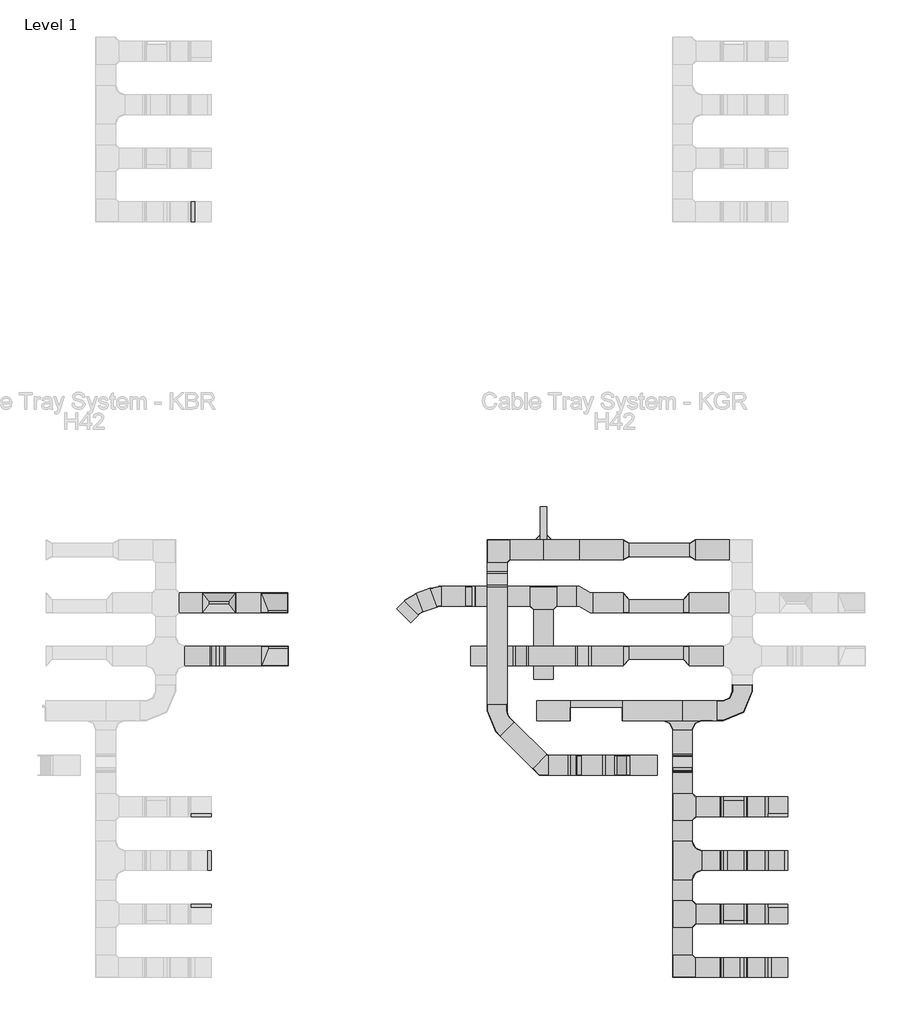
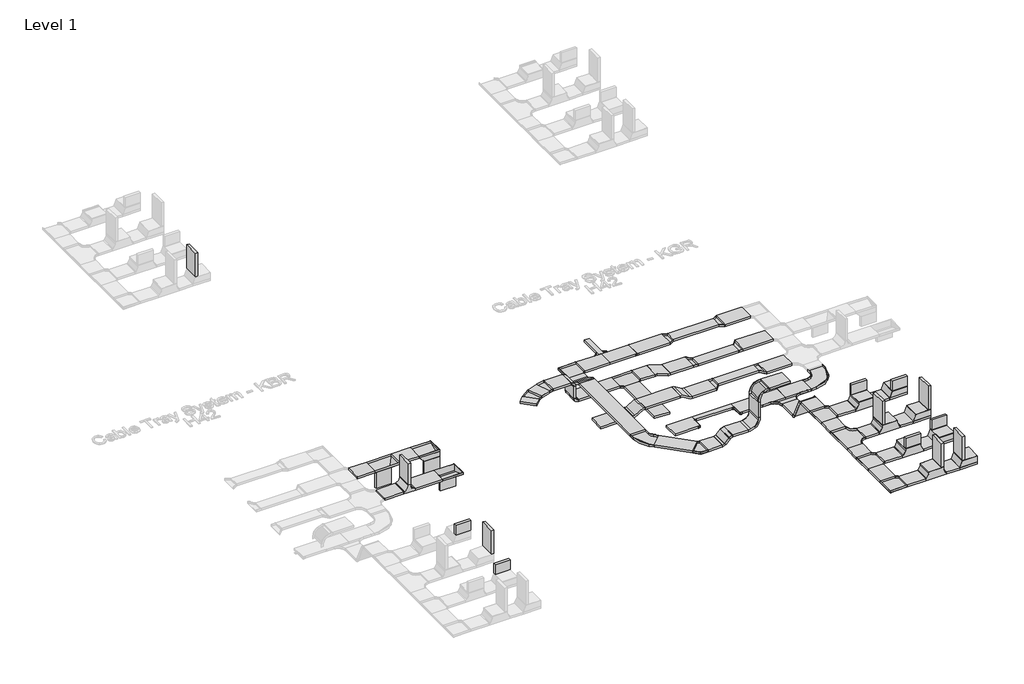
# One storey, part 5 of 32: 67 cable carrier segments, 47 cable carrier fittings.
"""IFC4 building model written with IfcOpenShell, lengths in millimetres."""

from ifc_helpers import new_model, si_unit, frame, origin, place, context, project, spatial, polyline, outline, extrude, transform, mapped, element, save
from components import cable_carrier_fitting_2f03b0e3, cable_carrier_fitting_e5c8e40d, cable_carrier_fitting_efa56db2, cable_carrier_fitting_2b67af39, cable_carrier_fitting_400b97e6, cable_carrier_fitting_736d034b, cable_carrier_fitting_94ef316f, cable_carrier_fitting_d4aa8912, cable_carrier_fitting_717dd42d, cable_carrier_fitting_b6ebce7b, cable_carrier_fitting_70c157f5, cable_carrier_fitting_f138ef00, cable_carrier_fitting_e93d4d17, cable_carrier_fitting_1724e2f5, cable_carrier_fitting_f62230c1, cable_carrier_fitting_ae8e9708, cable_carrier_fitting_2d1b2b1b, cable_carrier_fitting_6d558282, cable_carrier_fitting_b296faec, cable_carrier_fitting_47b1af77, cable_carrier_fitting_55953e98, cable_carrier_fitting_c1d9b0e5, cable_carrier_fitting_19ef2403, cable_carrier_fitting_0fee3a18, cable_carrier_fitting_93b13c26, cable_carrier_fitting_b8cc1d00, cable_carrier_fitting_0e05e12f, cable_carrier_fitting_aa4403b1, cable_carrier_fitting_df0feb0d, cable_carrier_fitting_3ff81d9b, cable_carrier_fitting_7d5806c9, cable_carrier_fitting_881c8fdb, cable_carrier_fitting_302010ec, cable_carrier_fitting_0ce080ce, rkj200_h42_828cf9d7, rkj200_h42_37d9c611

model = new_model("IFC4")

# Units and contexts
model_context = context("Model", 3, world=origin())
ifc_project = project(units=[si_unit("LENGTHUNIT", "METRE", prefix="MILLI")], contexts=[model_context])

# Site, building, storey
site = spatial("IfcSite", under=ifc_project)
building = spatial("IfcBuilding", under=site)
storey = spatial("IfcBuildingStorey", under=building, Name="Level 1", Elevation=0.0)

# Cable carrier fittings
placement = place(None, origin())
cable_carrier_fitting_shape = cable_carrier_fitting_2f03b0e3(model_context)
element("IfcCableCarrierFitting", 1, ObjectType="BAKS_Vertical tee symetrical : TRSNJ_H42", at=placement, inside=storey, context=model_context, shape_type="MappedRepresentation", body=[
    mapped(cable_carrier_fitting_shape, transform((-15558.1670538, 56380.8714214, 0.0), x_axis=(1.0, 0.0, 0.0), y_axis=(0.0, -1.0, 0.0), z_axis=(0.0, 0.0, -1.0))),
])
cable_carrier_fitting_2_shape = cable_carrier_fitting_e5c8e40d(model_context)
element("IfcCableCarrierFitting", 2, ObjectType="BAKS_SUB_Corner connector : LRJ_H42", at=placement, inside=storey, context=model_context, shape_type="MappedRepresentation", body=[
    mapped(cable_carrier_fitting_2_shape, transform((-10693.6670538, 58130.8714214, -21.0), x_axis=(-1.0, 0.0, 0.0), y_axis=(0.0, -1.0, 0.0), z_axis=(0.0, 0.0, 1.0))),
])
element("IfcCableCarrierFitting", 3, ObjectType="BAKS_SUB_Corner connector : LRJ_H42", at=placement, inside=storey, context=model_context, shape_type="MappedRepresentation", body=[
    mapped(cable_carrier_fitting_2_shape, transform((-10593.6670538, 58130.8714214, -21.0), x_axis=(0.0, 1.0, 0.0), y_axis=(-1.0, 0.0, 0.0), z_axis=(0.0, 0.0, 1.0))),
])
cable_carrier_fitting_3_shape = cable_carrier_fitting_efa56db2(model_context)
element("IfcCableCarrierFitting", 4, ObjectType="BAKS_Horizontal bypass : OPZNJ_H42", at=placement, inside=storey, context=model_context, shape_type="MappedRepresentation", body=[
    mapped(cable_carrier_fitting_3_shape, transform((-10022.1670538, 57180.8714214, 0.0), x_axis=(-1.0, 0.0, 0.0), y_axis=(0.0, 1.0, 0.0), z_axis=(0.0, 0.0, -1.0))),
])
cable_carrier_fitting_4_shape = cable_carrier_fitting_2b67af39(model_context)
element("IfcCableCarrierFitting", 5, ObjectType="BAKS_Vertical bypass : OPNNJ_H42", at=placement, inside=storey, context=model_context, shape_type="MappedRepresentation", body=[
    mapped(cable_carrier_fitting_4_shape, transform((-10986.6670538, 56380.8714214, 100.0), x_axis=(-1.0, 0.0, 0.0), y_axis=(0.0, -1.0, 0.0), z_axis=(0.0, 0.0, 1.0))),
])
cable_carrier_fitting_5_shape = cable_carrier_fitting_400b97e6(model_context)
element("IfcCableCarrierFitting", 6, ObjectType="BAKS_Vertical elbow left : KRLBJ_H42", at=placement, inside=storey, context=model_context, shape_type="MappedRepresentation", body=[
    mapped(cable_carrier_fitting_5_shape, transform((-14908.1670538, 57180.8714214, 0.0), x_axis=(1.0, 0.0, 0.0), y_axis=(0.0, 1.0, 0.0), z_axis=(0.0, 0.0, 1.0))),
])
cable_carrier_fitting_6_shape = cable_carrier_fitting_736d034b(model_context)
element("IfcCableCarrierFitting", 7, ObjectType="BAKS_Vertical tee lengthwise : TRBJ_H42", at=placement, inside=storey, context=model_context, shape_type="MappedRepresentation", body=[
    mapped(cable_carrier_fitting_6_shape, transform((-15538.1670538, 57180.8714214, 0.0), x_axis=(-1.0, 0.0, 0.0), y_axis=(0.0, -1.0, 0.0), z_axis=(0.0, 0.0, 1.0))),
])
cable_carrier_fitting_7_shape = cable_carrier_fitting_94ef316f(model_context)
element("IfcCableCarrierFitting", 8, ObjectType="BAKS_Reducer : RK(S/L/P)L_H42", at=placement, inside=storey, context=model_context, shape_type="MappedRepresentation", body=[
    mapped(cable_carrier_fitting_7_shape, transform((-9443.1670538, 57980.8714214, 0.0), x_axis=(1.0, 0.0, 0.0), y_axis=(0.0, 1.0, 0.0), z_axis=(0.0, 0.0, 1.0))),
])
cable_carrier_fitting_8_shape = cable_carrier_fitting_d4aa8912(model_context)
element("IfcCableCarrierFitting", 9, ObjectType="BAKS_Reducer : RK(S/L/P)L_H42", at=placement, inside=storey, context=model_context, shape_type="MappedRepresentation", body=[
    mapped(cable_carrier_fitting_8_shape, transform((-8443.1670538, 57980.8714214, 0.0), x_axis=(1.0, 0.0, 0.0), y_axis=(0.0, 1.0, 0.0), z_axis=(0.0, 0.0, 1.0))),
])
cable_carrier_fitting_9_shape = cable_carrier_fitting_717dd42d(model_context)
element("IfcCableCarrierFitting", 10, ObjectType="BAKS_Horizontal bend : KKBL/KKMBL_H42", at=placement, inside=storey, context=model_context, shape_type="MappedRepresentation", body=[
    mapped(cable_carrier_fitting_9_shape, transform((-11343.1670538, 57980.8714214, 0.0), x_axis=(-1.0, 0.0, 0.0), y_axis=(0.0, -1.0, 0.0), z_axis=(0.0, 0.0, 1.0))),
])
element("IfcCableCarrierFitting", 11, ObjectType="BAKS_Horizontal bend : KKBL/KKMBL_H42", at=placement, inside=storey, context=model_context, shape_type="MappedRepresentation", body=[
    mapped(cable_carrier_fitting_9_shape, transform((-8546.1670538, 51682.0146558, 432.5277378), x_axis=(0.0, -1.0, 0.0), y_axis=(1.0, 0.0, 0.0), z_axis=(0.0, 0.0, 1.0))),
])
cable_carrier_fitting_10_shape = cable_carrier_fitting_b6ebce7b(model_context)
element("IfcCableCarrierFitting", 12, ObjectType="BAKS_Horizontal tee : TKL_H42", at=placement, inside=storey, context=model_context, shape_type="MappedRepresentation", body=[
    mapped(cable_carrier_fitting_10_shape, transform((-10643.6670538, 57280.8714214, 0.0), x_axis=(1.0, 0.0, 0.0), y_axis=(0.0, 1.0, 0.0), z_axis=(0.0, 0.0, 1.0))),
])
element("IfcCableCarrierFitting", 13, ObjectType="BAKS_Horizontal tee : TKL_H42", at=placement, inside=storey, context=model_context, shape_type="MappedRepresentation", body=[
    mapped(cable_carrier_fitting_10_shape, transform((-8546.1670538, 52489.2974728, 432.5277378), x_axis=(0.0, 1.0, 0.0), y_axis=(-1.0, 0.0, 0.0), z_axis=(0.0, 0.0, 1.0))),
])
element("IfcCableCarrierFitting", 14, ObjectType="BAKS_Horizontal tee : TKL_H42", at=placement, inside=storey, context=model_context, shape_type="MappedRepresentation", body=[
    mapped(cable_carrier_fitting_10_shape, transform((-8546.1670538, 54103.8631068, 432.5277378), x_axis=(0.0, 1.0, 0.0), y_axis=(-1.0, 0.0, 0.0), z_axis=(0.0, 0.0, 1.0))),
])
cable_carrier_fitting_11_shape = cable_carrier_fitting_70c157f5(model_context)
element("IfcCableCarrierFitting", 15, ObjectType="BAKS_Reducer : RK(S/L/P)L_H42", at=placement, inside=storey, context=model_context, shape_type="MappedRepresentation", body=[
    mapped(cable_carrier_fitting_11_shape, transform((-9443.1670538, 57180.8714214, 0.0), x_axis=(1.0, 0.0, 0.0), y_axis=(0.0, 1.0, 0.0), z_axis=(0.0, 0.0, 1.0))),
])
element("IfcCableCarrierFitting", 16, ObjectType="BAKS_Reducer : RK(S/L/P)L_H42", at=placement, inside=storey, context=model_context, shape_type="MappedRepresentation", body=[
    mapped(cable_carrier_fitting_11_shape, transform((-8443.1670538, 56380.8714214, 0.0), x_axis=(-1.0, 0.0, 0.0), y_axis=(0.0, -1.0, 0.0), z_axis=(0.0, 0.0, 1.0))),
])
cable_carrier_fitting_12_shape = cable_carrier_fitting_f138ef00(model_context)
element("IfcCableCarrierFitting", 17, ObjectType="BAKS_Reducer : RK(S/L/P)L_H42", at=placement, inside=storey, context=model_context, shape_type="MappedRepresentation", body=[
    mapped(cable_carrier_fitting_12_shape, transform((-8443.1670538, 57180.8714214, 0.0), x_axis=(-1.0, 0.0, 0.0), y_axis=(0.0, -1.0, 0.0), z_axis=(0.0, 0.0, 1.0))),
])
element("IfcCableCarrierFitting", 18, ObjectType="BAKS_Reducer : RK(S/L/P)L_H42", at=placement, inside=storey, context=model_context, shape_type="MappedRepresentation", body=[
    mapped(cable_carrier_fitting_12_shape, transform((-9443.1670538, 56380.8714214, 0.0), x_axis=(1.0, 0.0, 0.0), y_axis=(0.0, 1.0, 0.0), z_axis=(0.0, 0.0, 1.0))),
])
cable_carrier_fitting_13_shape = cable_carrier_fitting_e93d4d17(model_context)
element("IfcCableCarrierFitting", 19, ObjectType="BAKS_Plate connector : LPMU_H42", at=placement, inside=storey, context=model_context, shape_type="MappedRepresentation", body=[
    mapped(cable_carrier_fitting_13_shape, transform((-10103.1670538, 57980.8714214, 0.0), x_axis=(1.0, 0.0, 0.0), y_axis=(0.0, 1.0, 0.0), z_axis=(0.0, 0.0, 1.0))),
])
cable_carrier_fitting_14_shape = cable_carrier_fitting_1724e2f5(model_context)
element("IfcCableCarrierFitting", 20, ObjectType="BAKS_Vertical bypass : OPNNJ_H42", at=placement, inside=storey, context=model_context, shape_type="MappedRepresentation", body=[
    mapped(cable_carrier_fitting_14_shape, transform((-10043.6670538, 56380.8714214, 0.0), x_axis=(-1.0, 0.0, 0.0), y_axis=(0.0, -1.0, 0.0), z_axis=(0.0, 0.0, 1.0))),
])
element("IfcCableCarrierFitting", 21, ObjectType="BAKS_Vertical bypass : OPNNJ_H42", at=placement, inside=storey, context=model_context, shape_type="MappedRepresentation", body=[
    mapped(cable_carrier_fitting_14_shape, transform((-11343.1670538, 57539.3714214, 0.0), x_axis=(0.0, -1.0, 0.0), y_axis=(1.0, 0.0, 0.0), z_axis=(0.0, 0.0, 1.0))),
])
cable_carrier_fitting_15_shape = cable_carrier_fitting_f62230c1(model_context)
element("IfcCableCarrierFitting", 22, ObjectType="BAKS_Vertical bend LU : LUNJ/LUMNJ_H42", at=placement, inside=storey, context=model_context, shape_type="MappedRepresentation", body=[
    mapped(cable_carrier_fitting_15_shape, transform((-11743.6670538, 57280.8714214, 0.0), x_axis=(-1.0, 0.0, 0.0), y_axis=(0.0, 0.0, 1.0), z_axis=(0.0, 1.0, 0.0))),
])
element("IfcCableCarrierFitting", 23, ObjectType="BAKS_Vertical bend LU : LUNJ/LUMNJ_H42", at=placement, inside=storey, context=model_context, shape_type="MappedRepresentation", body=[
    mapped(cable_carrier_fitting_15_shape, transform((-11743.6670538, 57280.8714214, 400.0), x_axis=(0.0, 0.0, 1.0), y_axis=(-1.0, 0.0, 0.0), z_axis=(0.0, -1.0, 0.0))),
])
cable_carrier_fitting_16_shape = cable_carrier_fitting_ae8e9708(model_context)
element("IfcCableCarrierFitting", 24, ObjectType="BAKS_Horizontal bend : KKBL/KKMBL_H42", at=placement, inside=storey, context=model_context, shape_type="MappedRepresentation", body=[
    mapped(cable_carrier_fitting_16_shape, transform((-10643.6670538, 54731.3714214, 100.0), x_axis=(0.7071067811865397, -0.7071067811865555, 0.0), y_axis=(0.7071067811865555, 0.7071067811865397, 0.0), z_axis=(0.0, 0.0, 1.0))),
])
cable_carrier_fitting_17_shape = cable_carrier_fitting_2d1b2b1b(model_context)
element("IfcCableCarrierFitting", 25, ObjectType="BAKS_Vertical bend LU : LUNJ/LUMNJ_H42", at=placement, inside=storey, context=model_context, shape_type="MappedRepresentation", body=[
    mapped(cable_carrier_fitting_17_shape, transform((-10243.6670538, 54731.3714214, 100.0), x_axis=(1.0, 0.0, 0.0), y_axis=(0.0, 0.0, 1.0), z_axis=(0.0, -1.0, 0.0))),
])
element("IfcCableCarrierFitting", 26, ObjectType="BAKS_Vertical bend LU : LUNJ/LUMNJ_H42", at=placement, inside=storey, context=model_context, shape_type="MappedRepresentation", body=[
    mapped(cable_carrier_fitting_17_shape, transform((-10106.2659001, 54731.3714214, 237.4011537), x_axis=(0.7071067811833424, 0.0, 0.7071067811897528), y_axis=(0.7071067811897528, 0.0, -0.7071067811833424), z_axis=(0.0, 1.0, 0.0))),
])
cable_carrier_fitting_18_shape = cable_carrier_fitting_6d558282(model_context)
element("IfcCableCarrierFitting", 27, ObjectType="BAKS_Vertical bend adjustable : LLL/LLJ_H42", at=placement, inside=storey, context=model_context, shape_type="MappedRepresentation", body=[
    mapped(cable_carrier_fitting_18_shape, transform((-9546.2659001, 54731.3714214, 237.4011537), x_axis=(1.0, 0.0, 0.0), y_axis=(0.0, 0.0, 1.0), z_axis=(0.0, -1.0, 0.0))),
])
element("IfcCableCarrierFitting", 28, ObjectType="BAKS_Vertical bend adjustable : LLL/LLJ_H42", at=placement, inside=storey, context=model_context, shape_type="MappedRepresentation", body=[
    mapped(cable_carrier_fitting_18_shape, transform((-9546.2659001, 54731.3714214, 977.4011537), x_axis=(0.0, 0.0, 1.0), y_axis=(1.0, 0.0, 0.0), z_axis=(0.0, 1.0, 0.0))),
])
cable_carrier_fitting_19_shape = cable_carrier_fitting_b296faec(model_context)
element("IfcCableCarrierFitting", 29, ObjectType="BAKS_Horizontal addon tee : TKDJ_H42", at=placement, inside=storey, context=model_context, shape_type="MappedRepresentation", body=[
    mapped(cable_carrier_fitting_19_shape, transform((-8546.1670538, 55555.8714214, 0.0), x_axis=(1.0, 0.0, 0.0), y_axis=(0.0, 1.0, 0.0), z_axis=(0.0, 0.0, 1.0))),
])
cable_carrier_fitting_20_shape = cable_carrier_fitting_47b1af77(model_context)
element("IfcCableCarrierFitting", 30, ObjectType="BAKS_Articulated_connector : LGJ_H42", at=placement, inside=storey, context=model_context, shape_type="MappedRepresentation", body=[
    mapped(cable_carrier_fitting_20_shape, transform((-8546.1670538, 54858.7056523, 0.0), x_axis=(0.0, -1.0, 0.0), y_axis=(0.0, 0.0, 1.0), z_axis=(-1.0, 0.0, 0.0))),
])
element("IfcCableCarrierFitting", 31, ObjectType="BAKS_Articulated_connector : LGJ_H42", at=placement, inside=storey, context=model_context, shape_type="MappedRepresentation", body=[
    mapped(cable_carrier_fitting_20_shape, transform((-8546.1670538, 54657.0146558, 432.5277378), x_axis=(0.0, -0.42261826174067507, 0.9063077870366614), y_axis=(0.0, -0.9063077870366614, -0.42261826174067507), z_axis=(1.0, 0.0, 0.0))),
])
cable_carrier_fitting_21_shape = cable_carrier_fitting_55953e98(model_context)
element("IfcCableCarrierFitting", 32, ObjectType="BAKS_Horizontal bend radius : KKPJ/KKMPJ_H42", at=placement, inside=storey, context=model_context, shape_type="MappedRepresentation", body=[
    mapped(cable_carrier_fitting_21_shape, transform((-11343.1670538, 55430.8714214, 100.0), x_axis=(0.0, -1.0, 0.0), y_axis=(1.0, 0.0, 0.0), z_axis=(0.0, 0.0, 1.0))),
])
cable_carrier_fitting_22_shape = cable_carrier_fitting_c1d9b0e5(model_context)
element("IfcCableCarrierFitting", 33, ObjectType="BAKS_Horizontal bend radius : KKPJ/KKMPJ_H42", at=placement, inside=storey, context=model_context, shape_type="MappedRepresentation", body=[
    mapped(cable_carrier_fitting_22_shape, transform((-7643.1670538, 55555.8714214, 0.0), x_axis=(1.0, 0.0, 0.0), y_axis=(0.0, 1.0, 0.0), z_axis=(0.0, 0.0, 1.0))),
])
cable_carrier_fitting_23_shape = cable_carrier_fitting_19ef2403(model_context)
element("IfcCableCarrierFitting", 34, ObjectType="BAKS_Adjustable bend : KKRPJ_H42", at=placement, inside=storey, context=model_context, shape_type="MappedRepresentation", body=[
    mapped(cable_carrier_fitting_23_shape, transform((-12581.9563973, 57157.7441698, 400.0), x_axis=(-0.9396926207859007, -0.34202014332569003, 0.0), y_axis=(0.34202014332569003, -0.9396926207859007, 0.0), z_axis=(0.0, 0.0, 1.0))),
])
cable_carrier_fitting_24_shape = cable_carrier_fitting_0fee3a18(model_context)
element("IfcCableCarrierFitting", 35, ObjectType="BAKS_Adjustable bend : KKRPJ_H42", at=placement, inside=storey, context=model_context, shape_type="MappedRepresentation", body=[
    mapped(cable_carrier_fitting_24_shape, transform((-12243.6670538, 57280.8714214, 400.0), x_axis=(-1.0, 0.0, 0.0), y_axis=(0.0, -1.0, 0.0), z_axis=(0.0, 0.0, 1.0))),
])
cable_carrier_fitting_25_shape = cable_carrier_fitting_93b13c26(model_context)
element("IfcCableCarrierFitting", 36, ObjectType="BAKS_Horizontal tee radius : TKPJ_H42", at=placement, inside=storey, context=model_context, shape_type="MappedRepresentation", body=[
    mapped(cable_carrier_fitting_25_shape, transform((-8546.1670538, 53296.5802898, 432.5277378), x_axis=(0.0, 1.0, 0.0), y_axis=(-1.0, 0.0, 0.0), z_axis=(0.0, 0.0, 1.0))),
])
cable_carrier_fitting_26_shape = cable_carrier_fitting_b8cc1d00(model_context)
element("IfcCableCarrierFitting", 37, ObjectType="BAKS_Vertical elbow right : KRPJ_H42", at=placement, inside=storey, context=model_context, shape_type="MappedRepresentation", body=[
    mapped(cable_carrier_fitting_26_shape, transform((-14902.1670538, 56380.8714214, 0.0), x_axis=(1.0, 0.0, 0.0), y_axis=(0.0, 1.0, 0.0), z_axis=(0.0, 0.0, 1.0))),
])
cable_carrier_fitting_27_shape = cable_carrier_fitting_0e05e12f(model_context)
element("IfcCableCarrierFitting", 38, ObjectType="BAKS_Universal elbow : KRUMJ_H42", at=placement, inside=storey, context=model_context, shape_type="MappedRepresentation", body=[
    mapped(cable_carrier_fitting_27_shape, transform((-7306.1670538, 54103.8631068, 432.5277378), x_axis=(1.0, 0.0, 0.0), y_axis=(0.0, 1.0, 0.0), z_axis=(0.0, 0.0, 1.0))),
])
cable_carrier_fitting_28_shape = cable_carrier_fitting_aa4403b1(model_context)
element("IfcCableCarrierFitting", 39, ObjectType="BAKS_Universal elbow : KRUMJ_H42", at=placement, inside=storey, context=model_context, shape_type="MappedRepresentation", body=[
    mapped(cable_carrier_fitting_28_shape, transform((-7306.1670538, 52489.2974728, 432.5277378), x_axis=(1.0, 0.0, 0.0), y_axis=(0.0, 1.0, 0.0), z_axis=(0.0, 0.0, 1.0))),
])
cable_carrier_fitting_29_shape = cable_carrier_fitting_df0feb0d(model_context)
element("IfcCableCarrierFitting", 40, ObjectType="BAKS_Universal elbow : KRUMJ_H42", at=placement, inside=storey, context=model_context, shape_type="MappedRepresentation", body=[
    mapped(cable_carrier_fitting_29_shape, transform((-7306.1670538, 51682.0146558, 432.5277378), x_axis=(1.0, 0.0, 0.0), y_axis=(0.0, 1.0, 0.0), z_axis=(0.0, 0.0, 1.0))),
])
cable_carrier_fitting_30_shape = cable_carrier_fitting_3ff81d9b(model_context)
element("IfcCableCarrierFitting", 41, ObjectType="BAKS_Universal tee : TRUNJ_H42", at=placement, inside=storey, context=model_context, shape_type="MappedRepresentation", body=[
    mapped(cable_carrier_fitting_30_shape, transform((-7773.5199976, 54103.8631068, 432.5277378), x_axis=(-1.0, 0.0, 0.0), y_axis=(0.0, -1.0, 0.0), z_axis=(0.0, 0.0, 1.0))),
])
cable_carrier_fitting_31_shape = cable_carrier_fitting_7d5806c9(model_context)
element("IfcCableCarrierFitting", 42, ObjectType="BAKS_Universal tee : TRUNJ_H42", at=placement, inside=storey, context=model_context, shape_type="MappedRepresentation", body=[
    mapped(cable_carrier_fitting_31_shape, transform((-7773.5199976, 52489.2974728, 432.5277378), x_axis=(-1.0, 0.0, 0.0), y_axis=(0.0, -1.0, 0.0), z_axis=(0.0, 0.0, 1.0))),
])
cable_carrier_fitting_32_shape = cable_carrier_fitting_881c8fdb(model_context)
element("IfcCableCarrierFitting", 43, ObjectType="BAKS_Universal elbow : KRUMJ_H42", at=placement, inside=storey, context=model_context, shape_type="MappedRepresentation", body=[
    mapped(cable_carrier_fitting_32_shape, transform((-7306.1670538, 53296.5802898, 432.5277378), x_axis=(1.0, 0.0, 0.0), y_axis=(0.0, 1.0, 0.0), z_axis=(0.0, 0.0, 1.0))),
])
cable_carrier_fitting_33_shape = cable_carrier_fitting_302010ec(model_context)
element("IfcCableCarrierFitting", 44, ObjectType="BAKS_Universal tee : TRUNJ_H42", at=placement, inside=storey, context=model_context, shape_type="MappedRepresentation", body=[
    mapped(cable_carrier_fitting_33_shape, transform((-7773.5199976, 53296.5802898, 432.5277378), x_axis=(-1.0, 0.0, 0.0), y_axis=(0.0, -1.0, 0.0), z_axis=(0.0, 0.0, 1.0))),
])
cable_carrier_fitting_34_shape = cable_carrier_fitting_0ce080ce(model_context)
element("IfcCableCarrierFitting", 45, ObjectType="BAKS_Universal tee : TRUNJ_H42", at=placement, inside=storey, context=model_context, shape_type="MappedRepresentation", body=[
    mapped(cable_carrier_fitting_34_shape, transform((-7773.5199976, 51682.0146558, 432.5277378), x_axis=(-1.0, 0.0, 0.0), y_axis=(0.0, -1.0, 0.0), z_axis=(0.0, 0.0, 1.0))),
])
rkj200_h42_shape = rkj200_h42_828cf9d7(model_context)
element("IfcCableCarrierFitting", 46, ObjectType="BAKS_Angle reducer : RKJ200_H42", at=placement, inside=storey, context=model_context, shape_type="MappedRepresentation", body=[
    mapped(rkj200_h42_shape, transform((-9453.1670538, 55555.8714214, 0.0), x_axis=(-1.0, 0.0, 0.0), y_axis=(0.0, -1.0, 0.0), z_axis=(0.0, 0.0, 1.0))),
])
rkj200_h42_2_shape = rkj200_h42_37d9c611(model_context)
element("IfcCableCarrierFitting", 47, ObjectType="BAKS_Angle reducer : RKJ200_H42", at=placement, inside=storey, context=model_context, shape_type="MappedRepresentation", body=[
    mapped(rkj200_h42_2_shape, transform((-10243.1670538, 55555.8714214, 0.0), x_axis=(1.0, 0.0, 0.0), y_axis=(0.0, 1.0, 0.0), z_axis=(0.0, 0.0, 1.0))),
])

# Cable carrier segments
element("IfcCableCarrierSegment", 48, ObjectType="BAKS - Cable tray H42 (KBR)", at=placement, inside=storey, context=model_context, shape_type="SweptSolid", body=[
    extrude(outline(polyline([(-16138.1670538, 57030.8714214), (-16138.1670538, 57330.8714214), (-15788.1670538, 57330.8714214), (-15788.1670538, 57030.8714214), (-16138.1670538, 57030.8714214)])), frame((0.0, 0.0, -21.0), z_axis=(0.0, 0.0, 1.0), x_axis=(1.0, 0.0, 0.0)), (0.0, 0.0, 1.0), 42.0),
])
element("IfcCableCarrierSegment", 49, ObjectType="BAKS - Cable tray H42 (KBR)", at=placement, inside=storey, context=model_context, shape_type="SweptSolid", body=[
    extrude(outline(polyline([(-16052.1670538, 56230.8714214), (-16052.1670538, 56530.8714214), (-15674.1670538, 56530.8714214), (-15674.1670538, 56230.8714214), (-16052.1670538, 56230.8714214)])), frame((0.0, 0.0, -21.0), z_axis=(0.0, 0.0, 1.0), x_axis=(1.0, 0.0, 0.0)), (0.0, 0.0, 1.0), 42.0),
])
element("IfcCableCarrierSegment", 50, ObjectType="BAKS - Cable tray H42 (KBR)", at=placement, inside=storey, context=model_context, shape_type="SweptSolid", body=[
    extrude(outline(polyline([(-15442.1670538, 56230.8714214), (-15442.1670538, 56530.8714214), (-14902.1670538, 56530.8714214), (-14902.1670538, 56230.8714214), (-15442.1670538, 56230.8714214)])), frame((0.0, 0.0, -21.0), z_axis=(0.0, 0.0, 1.0), x_axis=(1.0, 0.0, 0.0)), (0.0, 0.0, 1.0), 42.0),
])
element("IfcCableCarrierSegment", 51, ObjectType="BAKS - Cable tray H42 (KBR)", at=placement, inside=storey, context=model_context, shape_type="SweptSolid", body=[
    extrude(outline(polyline([(-15537.1670538, 56230.8714214), (-15579.1670538, 56230.8714214), (-15579.1670538, 56530.8714214), (-15537.1670538, 56530.8714214), (-15537.1670538, 56230.8714214)])), frame((0.0, 0.0, 136.0), z_axis=(0.0, 0.0, 1.0), x_axis=(1.0, 0.0, 0.0)), (0.0, 0.0, 1.0), 449.0),
])
element("IfcCableCarrierSegment", 52, ObjectType="BAKS - Cable tray H42 (KGR)", at=placement, inside=storey, context=model_context, shape_type="SweptSolid", body=[
    extrude(outline(polyline([(-15688.1670538, 57201.8714214), (-15388.1670538, 57201.8714214), (-15388.1670538, 57159.8714214), (-15688.1670538, 57159.8714214), (-15688.1670538, 57201.8714214)])), frame((0.0, 0.0, -464.0), z_axis=(0.0, 0.0, 1.0), x_axis=(1.0, 0.0, 0.0)), (0.0, 0.0, 1.0), 343.0),
])
element("IfcCableCarrierSegment", 53, ObjectType="BAKS - Cable tray H42 (KBR)", at=placement, inside=storey, context=model_context, shape_type="SweptSolid", body=[
    extrude(outline(polyline([(-15288.1670538, 57030.8714214), (-15288.1670538, 57330.8714214), (-14908.1670538, 57330.8714214), (-14908.1670538, 57030.8714214), (-15288.1670538, 57030.8714214)])), frame((0.0, 0.0, -21.0), z_axis=(0.0, 0.0, 1.0), x_axis=(1.0, 0.0, 0.0)), (0.0, 0.0, 1.0), 42.0),
])
element("IfcCableCarrierSegment", 54, ObjectType="BAKS - Cable tray H42 (KGR)", at=placement, inside=storey, context=model_context, shape_type="SweptSolid", body=[
    extrude(outline(polyline([(-14498.1670538, 57030.8714214), (-14798.1670538, 57030.8714214), (-14798.1670538, 57072.8714214), (-14498.1670538, 57072.8714214), (-14498.1670538, 57030.8714214)])), frame((0.0, 0.0, -464.0), z_axis=(0.0, 0.0, 1.0), x_axis=(1.0, 0.0, 0.0)), (0.0, 0.0, 1.0), 343.0),
])
element("IfcCableCarrierSegment", 55, ObjectType="BAKS - Cable tray H42 (KGR)", at=placement, inside=storey, context=model_context, shape_type="SweptSolid", body=[
    extrude(outline(polyline([(-14492.1670538, 56488.8714214), (-14792.1670538, 56488.8714214), (-14792.1670538, 56530.8714214), (-14492.1670538, 56530.8714214), (-14492.1670538, 56488.8714214)])), frame((0.0, 0.0, -421.0), z_axis=(0.0, 0.0, 1.0), x_axis=(1.0, 0.0, 0.0)), (0.0, 0.0, 1.0), 300.0),
])
element("IfcCableCarrierSegment", 56, ObjectType="BAKS - Cable tray H42 (KGR)", at=placement, inside=storey, context=model_context, shape_type="SweptSolid", body=[
    extrude(outline(polyline([(-10102.1670538, 57830.8714214), (-10102.1670538, 58130.8714214), (-9443.1670538, 58130.8714214), (-9443.1670538, 57830.8714214), (-10102.1670538, 57830.8714214)])), frame((0.0, 0.0, -21.0), z_axis=(0.0, 0.0, 1.0), x_axis=(1.0, 0.0, 0.0)), (0.0, 0.0, 1.0), 42.0),
])
element("IfcCableCarrierSegment", 57, ObjectType="BAKS - Cable tray H42 (KGR)", at=placement, inside=storey, context=model_context, shape_type="SweptSolid", body=[
    extrude(outline(polyline([(-9348.1670538, 57880.8714214), (-9348.1670538, 58080.8714214), (-8443.1670538, 58080.8714214), (-8443.1670538, 57880.8714214), (-9348.1670538, 57880.8714214)])), frame((0.0, 0.0, -21.0), z_axis=(0.0, 0.0, 1.0), x_axis=(1.0, 0.0, 0.0)), (0.0, 0.0, 1.0), 42.0),
])
element("IfcCableCarrierSegment", 58, ObjectType="BAKS - Cable tray H42 (KGR)", at=placement, inside=storey, context=model_context, shape_type="SweptSolid", body=[
    extrude(outline(polyline([(-8348.1670538, 57830.8714214), (-8348.1670538, 58130.8714214), (-7839.1670538, 58130.8714214), (-7839.1670538, 57830.8714214), (-8348.1670538, 57830.8714214)])), frame((0.0, 0.0, -21.0), z_axis=(0.0, 0.0, 1.0), x_axis=(1.0, 0.0, 0.0)), (0.0, 0.0, 1.0), 42.0),
])
element("IfcCableCarrierSegment", 59, ObjectType="BAKS - Cable tray H42 (KGR)", at=placement, inside=storey, context=model_context, shape_type="SweptSolid", body=[
    extrude(outline(polyline([(-8538.1670538, 57230.8714214), (-8538.1670538, 57030.8714214), (-9348.1670538, 57030.8714214), (-9348.1670538, 57230.8714214), (-8538.1670538, 57230.8714214)])), frame((0.0, 0.0, -21.0), z_axis=(0.0, 0.0, 1.0), x_axis=(1.0, 0.0, 0.0)), (0.0, 0.0, 1.0), 42.0),
])
element("IfcCableCarrierSegment", 60, ObjectType="BAKS - Cable tray H42 (KGR)", at=placement, inside=storey, context=model_context, shape_type="SweptSolid", body=[
    extrude(outline(polyline([(-9900.6670538, 57030.8714214), (-9900.6670538, 57330.8714214), (-9443.1670538, 57330.8714214), (-9443.1670538, 57030.8714214), (-9900.6670538, 57030.8714214)])), frame((0.0, 0.0, -21.0), z_axis=(0.0, 0.0, 1.0), x_axis=(1.0, 0.0, 0.0)), (0.0, 0.0, 1.0), 42.0),
])
element("IfcCableCarrierSegment", 61, ObjectType="BAKS - Cable tray H42 (KGR)", at=placement, inside=storey, context=model_context, shape_type="SweptSolid", body=[
    extrude(outline(polyline([(-7848.1670538, 57330.8714214), (-7848.1670538, 57030.8714214), (-8443.1670538, 57030.8714214), (-8443.1670538, 57330.8714214), (-7848.1670538, 57330.8714214)])), frame((0.0, 0.0, -21.0), z_axis=(0.0, 0.0, 1.0), x_axis=(1.0, 0.0, 0.0)), (0.0, 0.0, 1.0), 42.0),
])
element("IfcCableCarrierSegment", 62, ObjectType="BAKS - Cable tray H42 (KGR)", at=placement, inside=storey, context=model_context, shape_type="SweptSolid", body=[
    extrude(outline(polyline([(-8538.1670538, 56530.8714214), (-8538.1670538, 56330.8714214), (-9348.1670538, 56330.8714214), (-9348.1670538, 56530.8714214), (-8538.1670538, 56530.8714214)])), frame((0.0, 0.0, -21.0), z_axis=(0.0, 0.0, 1.0), x_axis=(1.0, 0.0, 0.0)), (0.0, 0.0, 1.0), 42.0),
])
element("IfcCableCarrierSegment", 63, ObjectType="BAKS - Cable tray H42 (KGR)", at=placement, inside=storey, context=model_context, shape_type="SweptSolid", body=[
    extrude(outline(polyline([(-9922.1670538, 56230.8714214), (-9922.1670538, 56530.8714214), (-9443.1670538, 56530.8714214), (-9443.1670538, 56230.8714214), (-9922.1670538, 56230.8714214)])), frame((0.0, 0.0, -21.0), z_axis=(0.0, 0.0, 1.0), x_axis=(1.0, 0.0, 0.0)), (0.0, 0.0, 1.0), 42.0),
])
element("IfcCableCarrierSegment", 64, ObjectType="BAKS - Cable tray H42 (KGR)", at=placement, inside=storey, context=model_context, shape_type="SweptSolid", body=[
    extrude(outline(polyline([(-7934.1670538, 56530.8714214), (-7934.1670538, 56230.8714214), (-8443.1670538, 56230.8714214), (-8443.1670538, 56530.8714214), (-7934.1670538, 56530.8714214)])), frame((0.0, 0.0, -21.0), z_axis=(0.0, 0.0, 1.0), x_axis=(1.0, 0.0, 0.0)), (0.0, 0.0, 1.0), 42.0),
])
element("IfcCableCarrierSegment", 65, ObjectType="BAKS - Cable tray H42 (KGR)", at=placement, inside=storey, context=model_context, shape_type="SweptSolid", body=[
    extrude(outline(polyline([(-10848.6670538, 57430.8714214), (-10848.6670538, 57130.8714214), (-11667.6670538, 57130.8714214), (-11667.6670538, 57430.8714214), (-10848.6670538, 57430.8714214)])), frame((0.0, 0.0, -21.0), z_axis=(0.0, 0.0, 1.0), x_axis=(1.0, 0.0, 0.0)), (0.0, 0.0, 1.0), 42.0),
])
element("IfcCableCarrierSegment", 66, ObjectType="BAKS - Cable tray H42 (KGR)", at=placement, inside=storey, context=model_context, shape_type="SweptSolid", body=[
    extrude(outline(polyline([(-10165.1670538, 56530.8714214), (-10165.1670538, 56230.8714214), (-10865.1670538, 56230.8714214), (-10865.1670538, 56530.8714214), (-10165.1670538, 56530.8714214)])), frame((0.0, 0.0, 79.0), z_axis=(0.0, 0.0, 1.0), x_axis=(1.0, 0.0, 0.0)), (0.0, 0.0, 1.0), 42.0),
])
element("IfcCableCarrierSegment", 67, ObjectType="BAKS - Cable tray H42 (KGR)", at=placement, inside=storey, context=model_context, shape_type="SweptSolid", body=[
    extrude(outline(polyline([(-11493.1670538, 57784.8714214), (-11193.1670538, 57784.8714214), (-11193.1670538, 57660.8714214), (-11493.1670538, 57660.8714214), (-11493.1670538, 57784.8714214)])), frame((0.0, 0.0, -21.0), z_axis=(0.0, 0.0, 1.0), x_axis=(1.0, 0.0, 0.0)), (0.0, 0.0, 1.0), 42.0),
])
element("IfcCableCarrierSegment", 68, ObjectType="BAKS - Cable tray H42 (KGR)", at=placement, inside=storey, context=model_context, shape_type="SweptSolid", body=[
    extrude(outline(polyline([(-10793.6670538, 57075.8714214), (-10493.6670538, 57075.8714214), (-10493.6670538, 56030.8714214), (-10793.6670538, 56030.8714214), (-10793.6670538, 57075.8714214)])), frame((0.0, 0.0, -21.0), z_axis=(0.0, 0.0, 1.0), x_axis=(1.0, 0.0, 0.0)), (0.0, 0.0, 1.0), 42.0),
])
element("IfcCableCarrierSegment", 69, ObjectType="BAKS - Cable tray H42 (KGR)", at=placement, inside=storey, context=model_context, shape_type="SweptSolid", body=[
    extrude(outline(polyline([(-10143.6670538, 57430.8714214), (-10143.6670538, 57130.8714214), (-10438.6670538, 57130.8714214), (-10438.6670538, 57430.8714214), (-10143.6670538, 57430.8714214)])), frame((0.0, 0.0, -21.0), z_axis=(0.0, 0.0, 1.0), x_axis=(1.0, 0.0, 0.0)), (0.0, 0.0, 1.0), 42.0),
])
element("IfcCableCarrierSegment", 70, ObjectType="BAKS - Cable tray H42 (KGR)", at=placement, inside=storey, context=model_context, shape_type="SweptSolid", body=[
    extrude(outline(polyline([(-11108.1670538, 56530.8714214), (-11108.1670538, 56230.8714214), (-11743.6670538, 56230.8714214), (-11743.6670538, 56530.8714214), (-11108.1670538, 56530.8714214)])), frame((0.0, 0.0, -21.0), z_axis=(0.0, 0.0, 1.0), x_axis=(1.0, 0.0, 0.0)), (0.0, 0.0, 1.0), 42.0),
])
element("IfcCableCarrierSegment", 71, ObjectType="BAKS - Cable tray H42 (KGR)", at=placement, inside=storey, context=model_context, shape_type="SweptSolid", body=[
    extrude(outline(polyline([(-12177.5322294, 57130.8714214), (-12177.5322294, 57430.8714214), (-11819.6670538, 57430.8714214), (-11819.6670538, 57130.8714214), (-12177.5322294, 57130.8714214)])), frame((0.0, 0.0, 379.0), z_axis=(0.0, 0.0, 1.0), x_axis=(1.0, 0.0, 0.0)), (0.0, 0.0, 1.0), 42.0),
])
element("IfcCableCarrierSegment", 72, ObjectType="BAKS - Cable tray H42 (KGR)", at=placement, inside=storey, context=model_context, shape_type="SweptSolid", body=[
    extrude(outline(polyline([(-11764.6670538, 57430.8714214), (-11722.6670538, 57430.8714214), (-11722.6670538, 57130.8714214), (-11764.6670538, 57130.8714214), (-11764.6670538, 57430.8714214)])), frame((0.0, 0.0, 76.0), z_axis=(0.0, 0.0, 1.0), x_axis=(1.0, 0.0, 0.0)), (0.0, 0.0, 1.0), 248.0),
])
element("IfcCableCarrierSegment", 73, ObjectType="BAKS - Cable tray H42 (KGR)", at=placement, inside=storey, context=model_context, shape_type="SweptSolid", body=[
    extrude(outline(polyline([(-11193.1670538, 55650.9933545), (-11493.1670538, 55650.9933545), (-11493.1670538, 57417.8714214), (-11193.1670538, 57417.8714214), (-11193.1670538, 55650.9933545)])), frame((0.0, 0.0, 79.0), z_axis=(0.0, 0.0, 1.0), x_axis=(1.0, 0.0, 0.0)), (0.0, 0.0, 1.0), 42.0),
])
element("IfcCableCarrierSegment", 74, ObjectType="BAKS - Cable tray H42 (KGR)", at=placement, inside=storey, context=model_context, shape_type="SweptSolid", body=[
    extrude(outline(polyline([(-11293.5833594, 55169.1556926), (-11081.451325, 55381.287727), (-10595.422321, 54895.258723), (-10807.5543554, 54683.1266887), (-11293.5833594, 55169.1556926)])), frame((0.0, 0.0, 79.0), z_axis=(0.0, 0.0, 1.0), x_axis=(1.0, 0.0, 0.0)), (0.0, 0.0, 1.0), 42.0),
])
element("IfcCableCarrierSegment", 75, ObjectType="BAKS - Cable tray H42 (KGR)", at=placement, inside=storey, context=model_context, shape_type="SweptSolid", body=[
    extrude(outline(polyline([(-10561.8954091, 54581.3714214), (-10561.8954091, 54881.3714214), (-10278.0762167, 54881.3714214), (-10278.0762167, 54581.3714214), (-10561.8954091, 54581.3714214)])), frame((0.0, 0.0, 79.0), z_axis=(0.0, 0.0, 1.0), x_axis=(1.0, 0.0, 0.0)), (0.0, 0.0, 1.0), 42.0),
])
element("IfcCableCarrierSegment", 76, ObjectType="BAKS - Cable tray H42 (KGR)", at=placement, inside=storey, context=model_context, shape_type="SweptSolid", body=[
    extrude(outline(polyline([(21.0, 1.4628667), (-21.0, 1.4628667), (-21.0, 301.4628667), (21.0, 301.4628667), (21.0, 1.4628667)])), frame((-10219.3361013, 54579.9085547, 124.3309524), z_axis=(0.7071067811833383, 0.0, 0.7071067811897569), x_axis=(0.7071067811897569, 0.0, -0.7071067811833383)), (0.0, 0.0, 1.0), 125.4962492),
])
element("IfcCableCarrierSegment", 77, ObjectType="BAKS - Cable tray H42 (KGR)", at=placement, inside=storey, context=model_context, shape_type="SweptSolid", body=[
    extrude(outline(polyline([(-10071.8567371, 54581.3714214), (-10071.8567371, 54881.3714214), (-9757.2659001, 54881.3714214), (-9757.2659001, 54581.3714214), (-10071.8567371, 54581.3714214)])), frame((0.0, 0.0, 216.4011537), z_axis=(0.0, 0.0, 1.0), x_axis=(1.0, 0.0, 0.0)), (0.0, 0.0, 1.0), 42.0),
])
element("IfcCableCarrierSegment", 78, ObjectType="BAKS - Cable tray H42 (KGR)", at=placement, inside=storey, context=model_context, shape_type="SweptSolid", body=[
    extrude(outline(polyline([(-9525.2659001, 54581.3714214), (-9567.2659001, 54581.3714214), (-9567.2659001, 54881.3714214), (-9525.2659001, 54881.3714214), (-9525.2659001, 54581.3714214)])), frame((0.0, 0.0, 448.4011537), z_axis=(0.0, 0.0, 1.0), x_axis=(1.0, 0.0, 0.0)), (0.0, 0.0, 1.0), 318.0),
])
element("IfcCableCarrierSegment", 79, ObjectType="BAKS - Cable tray H42 (KGR)", at=placement, inside=storey, context=model_context, shape_type="SweptSolid", body=[
    extrude(outline(polyline([(-9335.2659001, 54581.3714214), (-9335.2659001, 54881.3714214), (-8926.2659001, 54881.3714214), (-8926.2659001, 54581.3714214), (-9335.2659001, 54581.3714214)])), frame((0.0, 0.0, 956.4011537), z_axis=(0.0, 0.0, 1.0), x_axis=(1.0, 0.0, 0.0)), (0.0, 0.0, 1.0), 42.0),
])
element("IfcCableCarrierSegment", 80, ObjectType="BAKS - Cable tray H42 (KGR)", at=placement, inside=storey, context=model_context, shape_type="SweptSolid", body=[
    extrude(outline(polyline([(-8546.7091451, 55705.8714214), (-8546.7091451, 55405.8714214), (-9453.1670538, 55405.8714214), (-9453.1670538, 55705.8714214), (-8546.7091451, 55705.8714214)])), frame((0.0, 0.0, -21.0), z_axis=(0.0, 0.0, 1.0), x_axis=(1.0, 0.0, 0.0)), (0.0, 0.0, 1.0), 42.0),
])
element("IfcCableCarrierSegment", 81, ObjectType="BAKS - Cable tray H42 (KGR)", at=placement, inside=storey, context=model_context, shape_type="SweptSolid", body=[
    extrude(outline(polyline([(-10238.1670538, 55605.8714214), (-10238.1670538, 55705.8714214), (-9458.1670538, 55705.8714214), (-9458.1670538, 55605.8714214), (-10238.1670538, 55605.8714214)])), frame((0.0, 0.0, -21.0), z_axis=(0.0, 0.0, 1.0), x_axis=(1.0, 0.0, 0.0)), (0.0, 0.0, 1.0), 42.0),
])
element("IfcCableCarrierSegment", 82, ObjectType="BAKS - Cable tray H42 (KGR)", at=placement, inside=storey, context=model_context, shape_type="SweptSolid", body=[
    extrude(outline(polyline([(-10743.1670538, 55405.8714214), (-10743.1670538, 55705.8714214), (-10243.1670538, 55705.8714214), (-10243.1670538, 55405.8714214), (-10743.1670538, 55405.8714214)])), frame((0.0, 0.0, -21.0), z_axis=(0.0, 0.0, 1.0), x_axis=(1.0, 0.0, 0.0)), (0.0, 0.0, 1.0), 42.0),
])
element("IfcCableCarrierSegment", 83, ObjectType="BAKS - Cable tray H42 (KGR)", at=placement, inside=storey, context=model_context, shape_type="SweptSolid", body=[
    extrude(outline(polyline([(-8033.1670538, 55705.8714214), (-8033.1670538, 55405.8714214), (-8545.6249624, 55405.8714214), (-8545.6249624, 55705.8714214), (-8033.1670538, 55705.8714214)])), frame((0.0, 0.0, -21.0), z_axis=(0.0, 0.0, 1.0), x_axis=(1.0, 0.0, 0.0)), (0.0, 0.0, 1.0), 42.0),
])
element("IfcCableCarrierSegment", 84, ObjectType="BAKS - Cable tray H42 (KGR)", at=placement, inside=storey, context=model_context, shape_type="SweptSolid", body=[
    extrude(outline(polyline([(-8696.1670538, 55259.8714214), (-8396.1670538, 55259.8714214), (-8396.1670538, 54894.8255329), (-8696.1670538, 54894.8255329), (-8696.1670538, 55259.8714214)])), frame((0.0, 0.0, -21.0), z_axis=(0.0, 0.0, 1.0), x_axis=(1.0, 0.0, 0.0)), (0.0, 0.0, 1.0), 42.0),
])
element("IfcCableCarrierSegment", 85, ObjectType="BAKS - Cable tray H42 (KGR)", at=placement, inside=storey, context=model_context, shape_type="SweptSolid", body=[
    extrude(outline(polyline([(-150.0, 130.4628667), (-150.0, 172.4628667), (150.0, 172.4628667), (150.0, 130.4628667), (-150.0, 130.4628667)])), frame((-8546.1670538, 54706.1687555, -31.2752443), z_axis=(0.0, -0.42261826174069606, 0.9063077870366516), x_axis=(1.0, 0.0, 0.0)), (0.0, 0.0, 1.0), 405.0017938),
])
element("IfcCableCarrierSegment", 86, ObjectType="BAKS - Cable tray H42 (KGR)", at=placement, inside=storey, context=model_context, shape_type="SweptSolid", body=[
    extrude(outline(polyline([(-12357.1164817, 57399.2058724), (-12254.5104387, 57117.2980862), (-12456.1437833, 57043.9095505), (-12558.7498263, 57325.8173368), (-12357.1164817, 57399.2058724)])), frame((0.0, 0.0, 379.0), z_axis=(0.0, 0.0, 1.0), x_axis=(1.0, 0.0, 0.0)), (0.0, 0.0, 1.0), 42.0),
])
element("IfcCableCarrierSegment", 87, ObjectType="BAKS - Cable tray H42 (KGR)", at=placement, inside=storey, context=model_context, shape_type="SweptSolid", body=[
    extrude(outline(polyline([(-12744.0899379, 57207.7426635), (-12531.9579036, 56995.6106291), (-12644.3432656, 56883.2252671), (-12856.4753, 57095.3573015), (-12744.0899379, 57207.7426635)])), frame((0.0, 0.0, 379.0), z_axis=(0.0, 0.0, 1.0), x_axis=(1.0, 0.0, 0.0)), (0.0, 0.0, 1.0), 42.0),
])
element("IfcCableCarrierSegment", 88, ObjectType="BAKS - Cable tray H42 (KGR)", at=placement, inside=storey, context=model_context, shape_type="SweptSolid", body=[
    extrude(outline(polyline([(-10644.1670538, 58130.8714214), (-10644.1670538, 57830.8714214), (-11147.1670538, 57830.8714214), (-11147.1670538, 58130.8714214), (-10644.1670538, 58130.8714214)])), frame((0.0, 0.0, -21.0), z_axis=(0.0, 0.0, 1.0), x_axis=(1.0, 0.0, 0.0)), (0.0, 0.0, 1.0), 42.0),
])
element("IfcCableCarrierSegment", 89, ObjectType="BAKS - Cable tray H42 (KGR)", at=placement, inside=storey, context=model_context, shape_type="SweptSolid", body=[
    extrude(outline(polyline([(-10593.6670538, 58130.8714214), (-10693.6670538, 58130.8714214), (-10693.6670538, 58630.8714214), (-10593.6670538, 58630.8714214), (-10593.6670538, 58130.8714214)])), frame((0.0, 0.0, -21.0), z_axis=(0.0, 0.0, 1.0), x_axis=(1.0, 0.0, 0.0)), (0.0, 0.0, 1.0), 42.0),
])
element("IfcCableCarrierSegment", 90, ObjectType="BAKS - Cable tray H42 (KGR)", at=placement, inside=storey, context=model_context, shape_type="SweptSolid", body=[
    extrude(outline(polyline([(-10103.1670538, 58130.8714214), (-10103.1670538, 57830.8714214), (-10643.1670538, 57830.8714214), (-10643.1670538, 58130.8714214), (-10103.1670538, 58130.8714214)])), frame((0.0, 0.0, -21.0), z_axis=(0.0, 0.0, 1.0), x_axis=(1.0, 0.0, 0.0)), (0.0, 0.0, 1.0), 42.0),
])
element("IfcCableCarrierSegment", 91, ObjectType="BAKS - Cable tray H42 (KBR)", at=placement, inside=storey, context=model_context, shape_type="SweptSolid", body=[
    extrude(outline(polyline([(-15956.1670538, 53953.8631068), (-15956.1670538, 54003.8631068), (-15656.1670538, 54003.8631068), (-15656.1670538, 53953.8631068), (-15956.1670538, 53953.8631068)])), frame((0.0, 0.0, 586.5277378), z_axis=(0.0, 0.0, 1.0), x_axis=(1.0, 0.0, 0.0)), (0.0, 0.0, 1.0), 209.7997464),
])
element("IfcCableCarrierSegment", 92, ObjectType="BAKS - Cable tray H42 (KBR)", at=placement, inside=storey, context=model_context, shape_type="SweptSolid", body=[
    extrude(outline(polyline([(-15706.1670538, 53446.5802898), (-15656.1670538, 53446.5802898), (-15656.1670538, 53146.5802898), (-15706.1670538, 53146.5802898), (-15706.1670538, 53446.5802898)])), frame((0.0, 0.0, 586.5277378), z_axis=(0.0, 0.0, 1.0), x_axis=(1.0, 0.0, 0.0)), (0.0, 0.0, 1.0), 500.0),
])
element("IfcCableCarrierSegment", 93, ObjectType="BAKS - Cable tray H42 (KBR)", at=placement, inside=storey, context=model_context, shape_type="SweptSolid", body=[
    extrude(outline(polyline([(-15956.1670538, 52589.2974728), (-15956.1670538, 52639.2974728), (-15656.1670538, 52639.2974728), (-15656.1670538, 52589.2974728), (-15956.1670538, 52589.2974728)])), frame((0.0, 0.0, 586.5277378), z_axis=(0.0, 0.0, 1.0), x_axis=(1.0, 0.0, 0.0)), (0.0, 0.0, 1.0), 209.7997464),
])
element("IfcCableCarrierSegment", 94, ObjectType="BAKS - Cable tray H42 (KBJ)", at=placement, inside=storey, context=model_context, shape_type="SweptSolid", body=[
    extrude(outline(polyline([(-15956.1670538, 63232.0146558), (-15906.1670538, 63232.0146558), (-15906.1670538, 62932.0146558), (-15956.1670538, 62932.0146558), (-15956.1670538, 63232.0146558)])), frame((0.0, 0.0, 586.5277378), z_axis=(0.0, 0.0, 1.0), x_axis=(1.0, 0.0, 0.0)), (0.0, 0.0, 1.0), 500.0),
])
element("IfcCableCarrierSegment", 95, ObjectType="BAKS - Cable tray H42 (KGR)", at=placement, inside=storey, context=model_context, shape_type="SweptSolid", body=[
    extrude(outline(polyline([(-8696.1670538, 52284.2974728), (-8396.1670538, 52284.2974728), (-8396.1670538, 51878.0146558), (-8696.1670538, 51878.0146558), (-8696.1670538, 52284.2974728)])), frame((0.0, 0.0, 411.5277378), z_axis=(0.0, 0.0, 1.0), x_axis=(1.0, 0.0, 0.0)), (0.0, 0.0, 1.0), 42.0),
])
element("IfcCableCarrierSegment", 96, ObjectType="BAKS - Cable tray H42 (KGR)", at=placement, inside=storey, context=model_context, shape_type="SweptSolid", body=[
    extrude(outline(polyline([(-7563.5199976, 51532.0146558), (-7563.5199976, 51832.0146558), (-7306.1670538, 51832.0146558), (-7306.1670538, 51532.0146558), (-7563.5199976, 51532.0146558)])), frame((0.0, 0.0, 411.5277378), z_axis=(0.0, 0.0, 1.0), x_axis=(1.0, 0.0, 0.0)), (0.0, 0.0, 1.0), 42.0),
])
element("IfcCableCarrierSegment", 97, ObjectType="BAKS - Cable tray H42 (KGR)", at=placement, inside=storey, context=model_context, shape_type="SweptSolid", body=[
    extrude(outline(polyline([(-7563.5199976, 52339.2974728), (-7563.5199976, 52639.2974728), (-7306.1670538, 52639.2974728), (-7306.1670538, 52339.2974728), (-7563.5199976, 52339.2974728)])), frame((0.0, 0.0, 411.5277378), z_axis=(0.0, 0.0, 1.0), x_axis=(1.0, 0.0, 0.0)), (0.0, 0.0, 1.0), 42.0),
])
element("IfcCableCarrierSegment", 98, ObjectType="BAKS - Cable tray H42 (KGR)", at=placement, inside=storey, context=model_context, shape_type="SweptSolid", body=[
    extrude(outline(polyline([(-8696.1670538, 53001.5802898), (-8396.1670538, 53001.5802898), (-8396.1670538, 52694.2974728), (-8696.1670538, 52694.2974728), (-8696.1670538, 53001.5802898)])), frame((0.0, 0.0, 411.5277378), z_axis=(0.0, 0.0, 1.0), x_axis=(1.0, 0.0, 0.0)), (0.0, 0.0, 1.0), 42.0),
])
element("IfcCableCarrierSegment", 99, ObjectType="BAKS - Cable tray H42 (KGR)", at=placement, inside=storey, context=model_context, shape_type="SweptSolid", body=[
    extrude(outline(polyline([(-7563.5199976, 53146.5802898), (-7563.5199976, 53446.5802898), (-7306.1670538, 53446.5802898), (-7306.1670538, 53146.5802898), (-7563.5199976, 53146.5802898)])), frame((0.0, 0.0, 411.5277378), z_axis=(0.0, 0.0, 1.0), x_axis=(1.0, 0.0, 0.0)), (0.0, 0.0, 1.0), 42.0),
])
element("IfcCableCarrierSegment", 100, ObjectType="BAKS - Cable tray H42 (KGR)", at=placement, inside=storey, context=model_context, shape_type="SweptSolid", body=[
    extrude(outline(polyline([(-8696.1670538, 53898.8631068), (-8396.1670538, 53898.8631068), (-8396.1670538, 53591.5802898), (-8696.1670538, 53591.5802898), (-8696.1670538, 53898.8631068)])), frame((0.0, 0.0, 411.5277378), z_axis=(0.0, 0.0, 1.0), x_axis=(1.0, 0.0, 0.0)), (0.0, 0.0, 1.0), 42.0),
])
element("IfcCableCarrierSegment", 101, ObjectType="BAKS - Cable tray H42 (KGR)", at=placement, inside=storey, context=model_context, shape_type="SweptSolid", body=[
    extrude(outline(polyline([(-7563.5199976, 53953.8631068), (-7563.5199976, 54253.8631068), (-7306.1670538, 54253.8631068), (-7306.1670538, 53953.8631068), (-7563.5199976, 53953.8631068)])), frame((0.0, 0.0, 411.5277378), z_axis=(0.0, 0.0, 1.0), x_axis=(1.0, 0.0, 0.0)), (0.0, 0.0, 1.0), 42.0),
])
element("IfcCableCarrierSegment", 102, ObjectType="BAKS - Cable tray H42 (KGR)", at=placement, inside=storey, context=model_context, shape_type="SweptSolid", body=[
    extrude(outline(polyline([(-8696.1670538, 54620.8947751), (-8396.1670538, 54620.8947751), (-8396.1670538, 54308.8631068), (-8696.1670538, 54308.8631068), (-8696.1670538, 54620.8947751)])), frame((0.0, 0.0, 411.5277378), z_axis=(0.0, 0.0, 1.0), x_axis=(1.0, 0.0, 0.0)), (0.0, 0.0, 1.0), 42.0),
])
element("IfcCableCarrierSegment", 103, ObjectType="BAKS - Cable tray H42 (KGR)", at=placement, inside=storey, context=model_context, shape_type="SweptSolid", body=[
    extrude(outline(polyline([(-8341.1670538, 53953.8631068), (-8341.1670538, 54253.8631068), (-7983.5199976, 54253.8631068), (-7983.5199976, 53953.8631068), (-8341.1670538, 53953.8631068)])), frame((0.0, 0.0, 411.5277378), z_axis=(0.0, 0.0, 1.0), x_axis=(1.0, 0.0, 0.0)), (0.0, 0.0, 1.0), 42.0),
])
element("IfcCableCarrierSegment", 104, ObjectType="BAKS - Cable tray H42 (KGR)", at=placement, inside=storey, context=model_context, shape_type="SweptSolid", body=[
    extrude(outline(polyline([(-8251.1670538, 53146.5802898), (-8251.1670538, 53446.5802898), (-7983.5199976, 53446.5802898), (-7983.5199976, 53146.5802898), (-8251.1670538, 53146.5802898)])), frame((0.0, 0.0, 411.5277378), z_axis=(0.0, 0.0, 1.0), x_axis=(1.0, 0.0, 0.0)), (0.0, 0.0, 1.0), 42.0),
])
element("IfcCableCarrierSegment", 105, ObjectType="BAKS - Cable tray H42 (KGR)", at=placement, inside=storey, context=model_context, shape_type="SweptSolid", body=[
    extrude(outline(polyline([(-8341.1670538, 52339.2974728), (-8341.1670538, 52639.2974728), (-7983.5199976, 52639.2974728), (-7983.5199976, 52339.2974728), (-8341.1670538, 52339.2974728)])), frame((0.0, 0.0, 411.5277378), z_axis=(0.0, 0.0, 1.0), x_axis=(1.0, 0.0, 0.0)), (0.0, 0.0, 1.0), 42.0),
])
element("IfcCableCarrierSegment", 106, ObjectType="BAKS - Cable tray H42 (KGR)", at=placement, inside=storey, context=model_context, shape_type="SweptSolid", body=[
    extrude(outline(polyline([(-8350.1670538, 51532.0146558), (-8350.1670538, 51832.0146558), (-7983.5199976, 51832.0146558), (-7983.5199976, 51532.0146558), (-8350.1670538, 51532.0146558)])), frame((0.0, 0.0, 411.5277378), z_axis=(0.0, 0.0, 1.0), x_axis=(1.0, 0.0, 0.0)), (0.0, 0.0, 1.0), 42.0),
])
element("IfcCableCarrierSegment", 107, ObjectType="BAKS - Cable tray H42 (KGR)", at=placement, inside=storey, context=model_context, shape_type="SweptSolid", body=[
    extrude(outline(polyline([(-7256.1670538, 53953.8631068), (-7256.1670538, 54003.8631068), (-6956.1670538, 54003.8631068), (-6956.1670538, 53953.8631068), (-7256.1670538, 53953.8631068)])), frame((0.0, 0.0, 586.5277378), z_axis=(0.0, 0.0, 1.0), x_axis=(1.0, 0.0, 0.0)), (0.0, 0.0, 1.0), 209.7997464),
])
element("IfcCableCarrierSegment", 108, ObjectType="BAKS - Cable tray H42 (KGR)", at=placement, inside=storey, context=model_context, shape_type="SweptSolid", body=[
    extrude(outline(polyline([(-7623.5199976, 54253.8631068), (-7623.5199976, 54203.8631068), (-7923.5199976, 54203.8631068), (-7923.5199976, 54253.8631068), (-7623.5199976, 54253.8631068)])), frame((0.0, 0.0, 586.5277378), z_axis=(0.0, 0.0, 1.0), x_axis=(1.0, 0.0, 0.0)), (0.0, 0.0, 1.0), 209.7997464),
])
element("IfcCableCarrierSegment", 109, ObjectType="BAKS - Cable tray H42 (KGR)", at=placement, inside=storey, context=model_context, shape_type="SweptSolid", body=[
    extrude(outline(polyline([(-7006.1670538, 53446.5802898), (-6956.1670538, 53446.5802898), (-6956.1670538, 53146.5802898), (-7006.1670538, 53146.5802898), (-7006.1670538, 53446.5802898)])), frame((0.0, 0.0, 586.5277378), z_axis=(0.0, 0.0, 1.0), x_axis=(1.0, 0.0, 0.0)), (0.0, 0.0, 1.0), 500.0),
])
element("IfcCableCarrierSegment", 110, ObjectType="BAKS - Cable tray H42 (KGR)", at=placement, inside=storey, context=model_context, shape_type="SweptSolid", body=[
    extrude(outline(polyline([(-7923.5199976, 53446.5802898), (-7873.5199976, 53446.5802898), (-7873.5199976, 53146.5802898), (-7923.5199976, 53146.5802898), (-7923.5199976, 53446.5802898)])), frame((0.0, 0.0, 586.5277378), z_axis=(0.0, 0.0, 1.0), x_axis=(1.0, 0.0, 0.0)), (0.0, 0.0, 1.0), 500.0),
])
element("IfcCableCarrierSegment", 111, ObjectType="BAKS - Cable tray H42 (KGR)", at=placement, inside=storey, context=model_context, shape_type="SweptSolid", body=[
    extrude(outline(polyline([(-7256.1670538, 52589.2974728), (-7256.1670538, 52639.2974728), (-6956.1670538, 52639.2974728), (-6956.1670538, 52589.2974728), (-7256.1670538, 52589.2974728)])), frame((0.0, 0.0, 586.5277378), z_axis=(0.0, 0.0, 1.0), x_axis=(1.0, 0.0, 0.0)), (0.0, 0.0, 1.0), 209.7997464),
])
element("IfcCableCarrierSegment", 112, ObjectType="BAKS - Cable tray H42 (KGR)", at=placement, inside=storey, context=model_context, shape_type="SweptSolid", body=[
    extrude(outline(polyline([(-7923.5199976, 52339.2974728), (-7923.5199976, 52389.2974728), (-7623.5199976, 52389.2974728), (-7623.5199976, 52339.2974728), (-7923.5199976, 52339.2974728)])), frame((0.0, 0.0, 586.5277378), z_axis=(0.0, 0.0, 1.0), x_axis=(1.0, 0.0, 0.0)), (0.0, 0.0, 1.0), 209.7997464),
])
element("IfcCableCarrierSegment", 113, ObjectType="BAKS - Cable tray H42 (KGR)", at=placement, inside=storey, context=model_context, shape_type="SweptSolid", body=[
    extrude(outline(polyline([(-7673.5199976, 51832.0146558), (-7623.5199976, 51832.0146558), (-7623.5199976, 51532.0146558), (-7673.5199976, 51532.0146558), (-7673.5199976, 51832.0146558)])), frame((0.0, 0.0, 586.5277378), z_axis=(0.0, 0.0, 1.0), x_axis=(1.0, 0.0, 0.0)), (0.0, 0.0, 1.0), 500.0),
])
element("IfcCableCarrierSegment", 114, ObjectType="BAKS - Cable tray H42 (KGR)", at=placement, inside=storey, context=model_context, shape_type="SweptSolid", body=[
    extrude(outline(polyline([(-7256.1670538, 51832.0146558), (-7206.1670538, 51832.0146558), (-7206.1670538, 51532.0146558), (-7256.1670538, 51532.0146558), (-7256.1670538, 51832.0146558)])), frame((0.0, 0.0, 586.5277378), z_axis=(0.0, 0.0, 1.0), x_axis=(1.0, 0.0, 0.0)), (0.0, 0.0, 1.0), 500.0),
])

save(model, "model.ifc")
